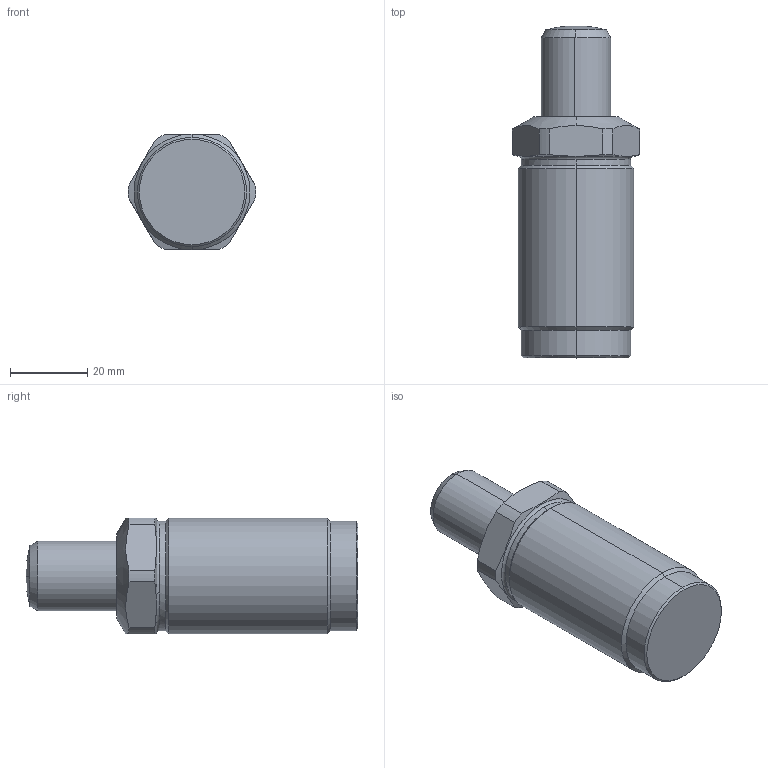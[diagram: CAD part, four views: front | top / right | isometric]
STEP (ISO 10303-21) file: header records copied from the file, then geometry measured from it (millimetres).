
FILE_DESCRIPTION((' '),'2;1');
FILE_NAME( 'CMC06-20R.x_t.stp', '2024-08-27T13:58:38', (' '), ('--- Datakit www.datakit.com---'), ' Datakit CrossCadWare V2024.1 Dec 21 2023', 'Mastercam 2025', ' ');
FILE_SCHEMA(('AUTOMOTIVE_DESIGN { 1 0 10303 214 1 1 1 1 }'));
Length unit declared in the file: millimetre
Products named in the file (1): CMC06-20R
Bounding box: 32.98 x 86 x 30 mm (x, y, z)
Volume: 44137.9 mm3; surface area: 10088.5 mm2
Topology: 2 solids, 2 shells, 42 faces, 103 edges, 64 vertices
Faces by surface type: cylinder 16, cone 12, plane 10, torus 2, sphere 2
Entity records: 1363 total; most frequent: CARTESIAN_POINT 324, DIRECTION 222, ORIENTED_EDGE 202, EDGE_CURVE 101, AXIS2_PLACEMENT_3D 94, VERTEX_POINT 64, CIRCLE 51, EDGE_LOOP 43
